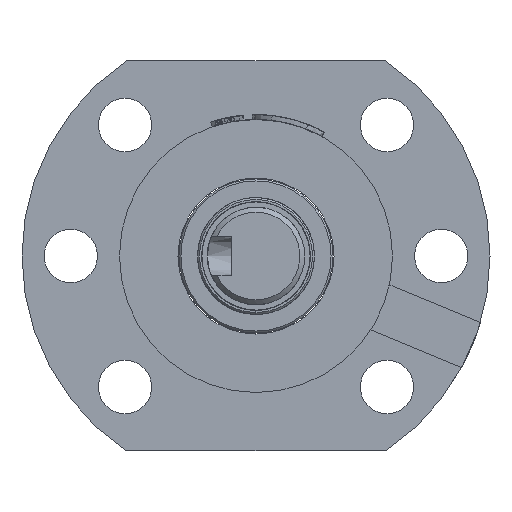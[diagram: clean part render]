
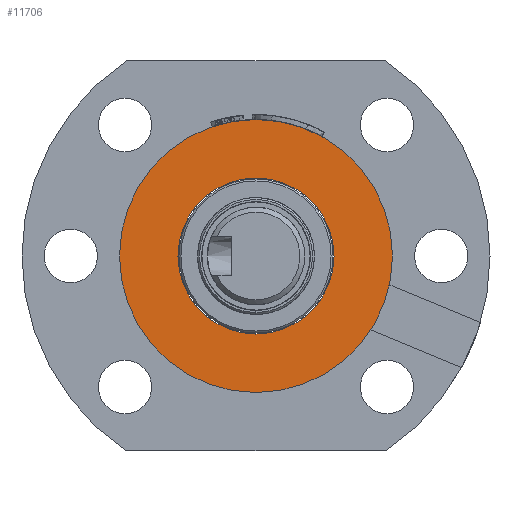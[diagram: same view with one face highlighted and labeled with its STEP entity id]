
A CAD part, left-side view. The second image highlights one B-rep face of the part: STEP entity #11706.
In plain terms, the highlighted planar face has unit normal (-1, 0, 0) as drawn and (1, 0, 0) by its records, which use the part's own axes.
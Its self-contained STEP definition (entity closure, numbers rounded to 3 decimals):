
#229 = CARTESIAN_POINT ( 'NONE',  ( 57., 0., 8. ) ) ;
#992 = EDGE_CURVE ( 'NONE', #5905, #14273, #10466, .T. ) ;
#1550 = CARTESIAN_POINT ( 'NONE',  ( 57., 0., 14. ) ) ;
#1566 = CARTESIAN_POINT ( 'NONE',  ( 57., 0., -8. ) ) ;
#1926 = CARTESIAN_POINT ( 'NONE',  ( 57., 0., -14. ) ) ;
#2011 = CIRCLE ( 'NONE', #7541, 14. ) ;
#3536 = DIRECTION ( 'NONE',  ( -1., 0., 0. ) ) ;
#4659 = CARTESIAN_POINT ( 'NONE',  ( 57., 0., 0. ) ) ;
#5905 = VERTEX_POINT ( 'NONE', #229 ) ;
#7029 = CIRCLE ( 'NONE', #20790, 8. ) ;
#7541 = AXIS2_PLACEMENT_3D ( 'NONE', #25545, #13118, #28825 ) ;
#8553 = CARTESIAN_POINT ( 'NONE',  ( 57., 0., 0. ) ) ;
#9000 = PLANE ( 'NONE',  #24139 ) ;
#9169 = FACE_OUTER_BOUND ( 'NONE', #25258, .T. ) ;
#10001 = DIRECTION ( 'NONE',  ( -1., 0., 0. ) ) ;
#10466 = CIRCLE ( 'NONE', #29201, 8. ) ;
#11685 = ORIENTED_EDGE ( 'NONE', *, *, #12742, .T. ) ;
#11706 = ADVANCED_FACE ( 'NONE', ( #14660, #9169 ), #9000, .F. ) ;
#12522 = AXIS2_PLACEMENT_3D ( 'NONE', #31700, #18594, #28795 ) ;
#12742 = EDGE_CURVE ( 'NONE', #14273, #5905, #7029, .T. ) ;
#12862 = EDGE_CURVE ( 'NONE', #18318, #24326, #26860, .T. ) ;
#13118 = DIRECTION ( 'NONE',  ( -1., 0., 0. ) ) ;
#13983 = DIRECTION ( 'NONE',  ( -1., 0., 0. ) ) ;
#14273 = VERTEX_POINT ( 'NONE', #1566 ) ;
#14660 = FACE_BOUND ( 'NONE', #18286, .T. ) ;
#16707 = ORIENTED_EDGE ( 'NONE', *, *, #21607, .F. ) ;
#17595 = DIRECTION ( 'NONE',  ( 0., 0., 1. ) ) ;
#18286 = EDGE_LOOP ( 'NONE', ( #32248, #11685 ) ) ;
#18318 = VERTEX_POINT ( 'NONE', #1926 ) ;
#18594 = DIRECTION ( 'NONE',  ( -1., 0., 0. ) ) ;
#20790 = AXIS2_PLACEMENT_3D ( 'NONE', #4659, #10001, #21943 ) ;
#21607 = EDGE_CURVE ( 'NONE', #24326, #18318, #2011, .T. ) ;
#21943 = DIRECTION ( 'NONE',  ( 0., 0., 1. ) ) ;
#24139 = AXIS2_PLACEMENT_3D ( 'NONE', #24855, #13983, #17595 ) ;
#24326 = VERTEX_POINT ( 'NONE', #1550 ) ;
#24855 = CARTESIAN_POINT ( 'NONE',  ( 57., 0., -14. ) ) ;
#25258 = EDGE_LOOP ( 'NONE', ( #16707, #31804 ) ) ;
#25545 = CARTESIAN_POINT ( 'NONE',  ( 57., 0., 0. ) ) ;
#26860 = CIRCLE ( 'NONE', #12522, 14. ) ;
#28795 = DIRECTION ( 'NONE',  ( 0., 0., 1. ) ) ;
#28825 = DIRECTION ( 'NONE',  ( 0., 0., 1. ) ) ;
#29201 = AXIS2_PLACEMENT_3D ( 'NONE', #8553, #3536, #29253 ) ;
#29253 = DIRECTION ( 'NONE',  ( 0., 0., 1. ) ) ;
#31700 = CARTESIAN_POINT ( 'NONE',  ( 57., 0., 0. ) ) ;
#31804 = ORIENTED_EDGE ( 'NONE', *, *, #12862, .F. ) ;
#32248 = ORIENTED_EDGE ( 'NONE', *, *, #992, .T. ) ;
